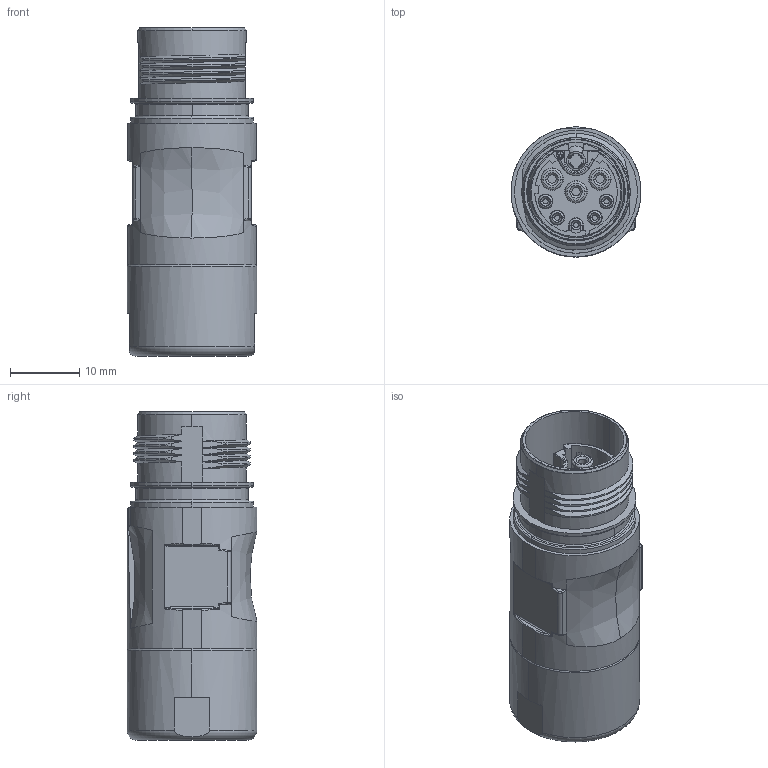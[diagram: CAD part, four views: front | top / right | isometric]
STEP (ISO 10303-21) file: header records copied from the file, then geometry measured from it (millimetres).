
FILE_DESCRIPTION((''),'2;1');
FILE_NAME('ST-8ES1N8A9K02S_1618748','2014-09-11T',('feitelbuss'),(''),'PRO/ENGINEER BY PARAMETRIC TECHNOLOGY CORPORATION, 2013230','PRO/ENGINEER BY PARAMETRIC TECHNOLOGY CORPORATION, 2013230','');
FILE_SCHEMA(('AUTOMOTIVE_DESIGN { 1 0 10303 214 1 1 1 1 }'));
Length unit declared in the file: millimetre
Products named in the file (1): ST-8ES1N8A9K02S_1618748
Bounding box: 18.7 x 18.7 x 47.35 mm (x, y, z)
Volume: 10244.4 mm3; surface area: 5049.4 mm2
Topology: 1 solids, 1 shells, 473 faces, 1182 edges, 735 vertices
Faces by surface type: plane 158, cylinder 118, bspline 111, torus 57, cone 25, sphere 4
Entity records: 20785 total; most frequent: CARTESIAN_POINT 10054, ORIENTED_EDGE 2364, DIRECTION 1979, EDGE_CURVE 1182, AXIS2_PLACEMENT_3D 747, VERTEX_POINT 735, EDGE_LOOP 503, VECTOR 485
